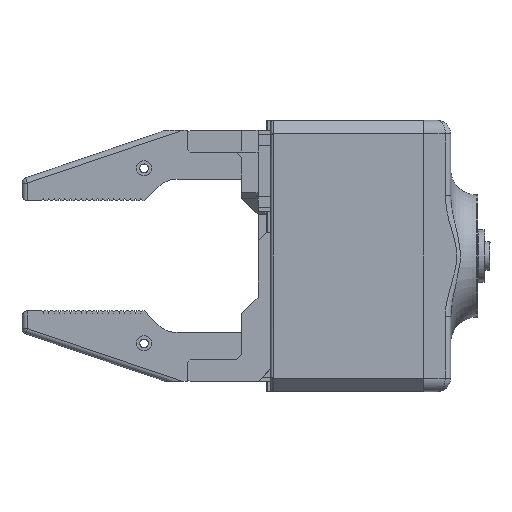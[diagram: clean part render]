
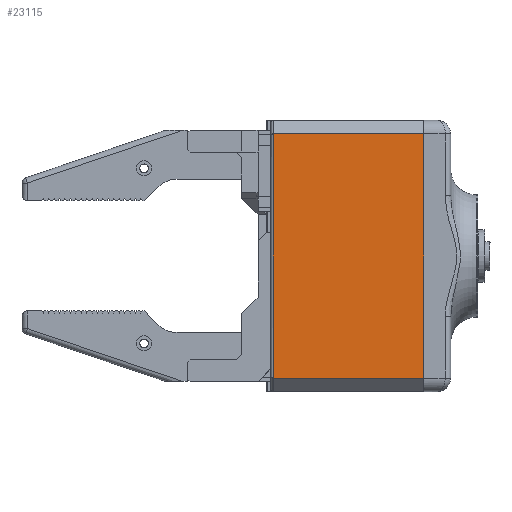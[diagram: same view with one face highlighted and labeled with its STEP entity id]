
A CAD part, left-side view. The second image highlights one B-rep face of the part: STEP entity #23115.
In plain terms, the highlighted planar face has unit normal (-1, 0, 0) as drawn and (0, 1, 0) by its records, which use the part's own axes.
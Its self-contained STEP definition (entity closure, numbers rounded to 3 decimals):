
#1907=LINE('',#40414,#4177);
#1916=LINE('',#40442,#4186);
#1919=LINE('',#40448,#4189);
#1920=LINE('',#40449,#4190);
#4177=VECTOR('',#28844,10.);
#4186=VECTOR('',#28873,10.);
#4189=VECTOR('',#28878,10.);
#4190=VECTOR('',#28879,10.);
#6602=FACE_OUTER_BOUND('',#7982,.T.);
#7982=EDGE_LOOP('',(#18414,#18415,#18416,#18417));
#10490=VERTEX_POINT('',#40411);
#10491=VERTEX_POINT('',#40413);
#10500=VERTEX_POINT('',#40441);
#10502=VERTEX_POINT('',#40447);
#13294=EDGE_CURVE('',#10490,#10491,#1907,.T.);
#13308=EDGE_CURVE('',#10491,#10500,#1916,.T.);
#13311=EDGE_CURVE('',#10502,#10490,#1919,.T.);
#13312=EDGE_CURVE('',#10500,#10502,#1920,.T.);
#18414=ORIENTED_EDGE('',*,*,#13294,.F.);
#18415=ORIENTED_EDGE('',*,*,#13311,.F.);
#18416=ORIENTED_EDGE('',*,*,#13312,.F.);
#18417=ORIENTED_EDGE('',*,*,#13308,.F.);
#21995=PLANE('',#24924);
#23115=ADVANCED_FACE('',(#6602),#21995,.T.);
#24924=AXIS2_PLACEMENT_3D('',#40446,#28876,#28877);
#28844=DIRECTION('',(1.,0.,0.));
#28873=DIRECTION('',(0.,0.,1.));
#28876=DIRECTION('center_axis',(0.,1.,0.));
#28877=DIRECTION('ref_axis',(1.,0.,0.));
#28878=DIRECTION('',(0.,0.,-1.));
#28879=DIRECTION('',(-1.,0.,0.));
#40411=CARTESIAN_POINT('',(-32.5,25.,-50.3));
#40413=CARTESIAN_POINT('',(57.5,25.,-50.3));
#40414=CARTESIAN_POINT('',(16.35,25.,-50.3));
#40441=CARTESIAN_POINT('',(57.5,25.,5.));
#40442=CARTESIAN_POINT('',(57.5,25.,0.));
#40446=CARTESIAN_POINT('Origin',(20.2,25.,0.));
#40447=CARTESIAN_POINT('',(-32.5,25.,5.));
#40448=CARTESIAN_POINT('',(-32.5,25.,0.));
#40449=CARTESIAN_POINT('',(62.5,25.,5.));
